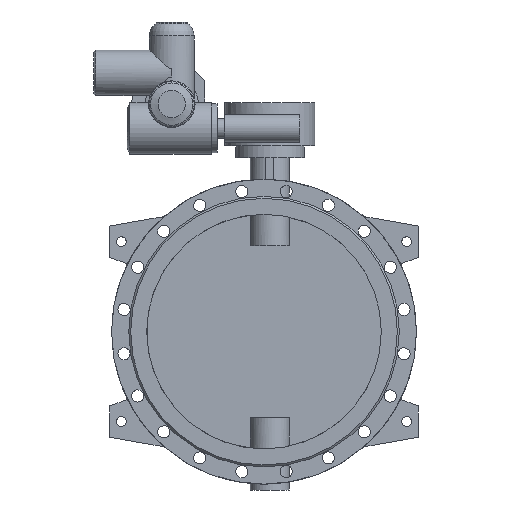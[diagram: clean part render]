
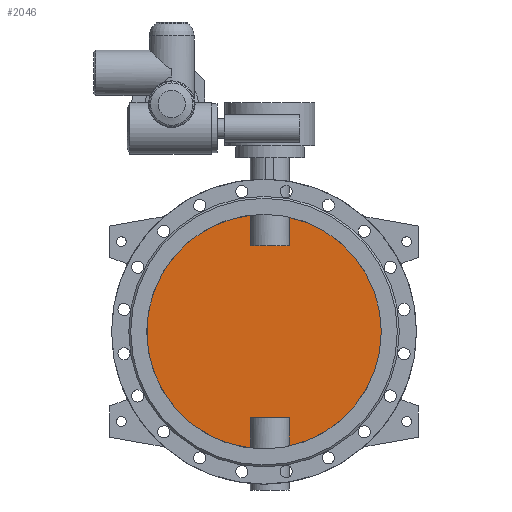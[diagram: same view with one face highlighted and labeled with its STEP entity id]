
A CAD part, front view. The second image highlights one B-rep face of the part: STEP entity #2046.
In plain terms, the highlighted planar face has unit normal (0, -1, 0).
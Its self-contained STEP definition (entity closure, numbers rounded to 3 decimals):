
#2046=ADVANCED_FACE('',(#4107),#4109,.F.);
#4107=FACE_BOUND('',#4108,.T.);
#4108=EDGE_LOOP('',(#5039,#5040,#5041,#5042,#5043,#5044,#5045,#5046));
#4109=PLANE('',#4110);
#4110=AXIS2_PLACEMENT_3D('',#4111,#4112,#4113);
#4111=CARTESIAN_POINT('',(0.,-5.,0.));
#4112=DIRECTION('',(0.,1.,0.));
#4113=DIRECTION('',(1.,0.,0.));
#5039=ORIENTED_EDGE('',*,*,#5506,.T.);
#5040=ORIENTED_EDGE('',*,*,#5511,.T.);
#5041=ORIENTED_EDGE('',*,*,#5512,.T.);
#5042=ORIENTED_EDGE('',*,*,#5513,.T.);
#5043=ORIENTED_EDGE('',*,*,#5508,.T.);
#5044=ORIENTED_EDGE('',*,*,#5514,.T.);
#5045=ORIENTED_EDGE('',*,*,#5515,.T.);
#5046=ORIENTED_EDGE('',*,*,#5516,.T.);
#5506=EDGE_CURVE('',#6323,#6324,#6325,.F.);
#5508=EDGE_CURVE('',#6328,#6326,#6329,.F.);
#5511=EDGE_CURVE('',#6324,#6333,#6334,.T.);
#5512=EDGE_CURVE('',#6333,#6335,#6336,.F.);
#5513=EDGE_CURVE('',#6335,#6328,#6337,.F.);
#5514=EDGE_CURVE('',#6326,#6338,#6339,.F.);
#5515=EDGE_CURVE('',#6338,#6340,#6341,.F.);
#5516=EDGE_CURVE('',#6340,#6323,#6342,.T.);
#6323=VERTEX_POINT('',#10185);
#6324=VERTEX_POINT('',#10186);
#6325=CIRCLE('',#10187,300.);
#6326=VERTEX_POINT('',#10191);
#6328=VERTEX_POINT('',#10278);
#6329=CIRCLE('',#10279,300.);
#6333=VERTEX_POINT('',#10396);
#6334=LINE('',#10397,#10398);
#6335=VERTEX_POINT('',#10400);
#6336=LINE('',#10401,#10402);
#6337=LINE('',#10404,#10405);
#6338=VERTEX_POINT('',#10407);
#6339=LINE('',#10408,#10409);
#6340=VERTEX_POINT('',#10411);
#6341=LINE('',#10412,#10413);
#6342=LINE('',#10415,#10416);
#10185=CARTESIAN_POINT('',(64.749,-5.,-292.929));
#10186=CARTESIAN_POINT('',(64.749,-5.,292.929));
#10187=AXIS2_PLACEMENT_3D('',#10188,#10189,#10190);
#10188=CARTESIAN_POINT('',(0.,-5.,0.));
#10189=DIRECTION('',(0.,1.,0.));
#10190=DIRECTION('',(0.216,0.,0.976));
#10191=CARTESIAN_POINT('',(-34.749,-5.,-297.981));
#10278=CARTESIAN_POINT('',(-34.749,-5.,297.981));
#10279=AXIS2_PLACEMENT_3D('',#10280,#10281,#10282);
#10280=CARTESIAN_POINT('',(0.,-5.,0.));
#10281=DIRECTION('',(0.,1.,0.));
#10282=DIRECTION('',(-0.116,0.,-0.993));
#10396=CARTESIAN_POINT('',(64.749,-5.,220.));
#10397=CARTESIAN_POINT('',(64.749,-5.,292.929));
#10398=VECTOR('',#10399,1.);
#10399=DIRECTION('',(0.,0.,-1.));
#10400=CARTESIAN_POINT('',(-34.749,-5.,220.));
#10401=CARTESIAN_POINT('',(-34.749,-5.,220.));
#10402=VECTOR('',#10403,1.);
#10403=DIRECTION('',(1.,0.,0.));
#10404=CARTESIAN_POINT('',(-34.749,-5.,297.981));
#10405=VECTOR('',#10406,1.);
#10406=DIRECTION('',(0.,0.,-1.));
#10407=CARTESIAN_POINT('',(-34.749,-5.,-220.));
#10408=CARTESIAN_POINT('',(-34.749,-5.,-220.));
#10409=VECTOR('',#10410,1.);
#10410=DIRECTION('',(0.,0.,-1.));
#10411=CARTESIAN_POINT('',(64.749,-5.,-220.));
#10412=CARTESIAN_POINT('',(64.749,-5.,-220.));
#10413=VECTOR('',#10414,1.);
#10414=DIRECTION('',(-1.,0.,0.));
#10415=CARTESIAN_POINT('',(64.749,-5.,-220.));
#10416=VECTOR('',#10417,1.);
#10417=DIRECTION('',(0.,0.,-1.));
